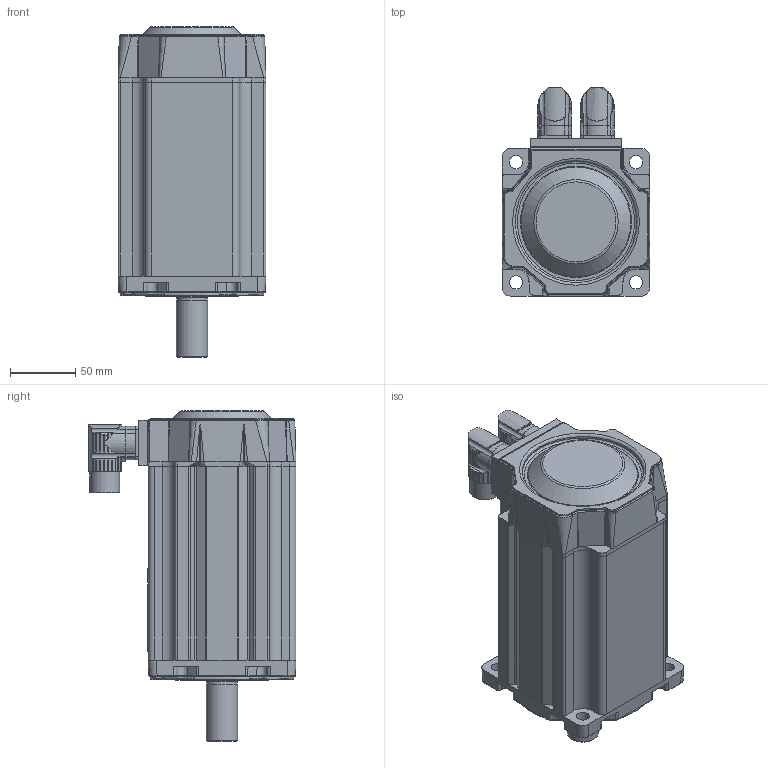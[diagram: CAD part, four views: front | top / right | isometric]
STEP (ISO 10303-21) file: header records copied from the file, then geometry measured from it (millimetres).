
FILE_DESCRIPTION((''),'2;1');
FILE_NAME('C:\CAD_work\Dummy_Modeling_Project_02-12-05\3D MODELS\MPP1154XXX_NPSN.stp','2005-12-20T17:14:27',('jevans'),(''),'Autodesk Inventor 10','Autodesk Inventor 10','');
FILE_SCHEMA(('AUTOMOTIVE_DESIGN { 1 0 10303 214 1 1 1 1 }'));
Length unit declared in the file: inch
Products named in the file (1): MPP115_MOTOR
Bounding box: 113.03 x 159.03 x 253.19 mm (x, y, z)
Volume: 2213655.7 mm3; surface area: 167107.7 mm2
Topology: 2 solids, 2 shells, 1017 faces, 2591 edges, 1624 vertices
Faces by surface type: bspline 355, cylinder 321, plane 240, cone 82, torus 17, sphere 2
Full cylindrical faces by diameter (mm): 1.143 x17, 2.032 x6, 2.794 x2, 19.05 x1, 19.685 x1, 22.86 x1, 23.647 x1, 24.003 x1, 24.994 x2, 31.75 x1, 47.549 x1, 54.61 x1, 61.468 x1, 62.001 x1, 62.027 x1, 62.268 x1, 65.634 x1, 69.85 x1, 71.12 x1, 93.066 x1, 109.995 x1
Entity records: 41634 total; most frequent: CARTESIAN_POINT 19322, ORIENTED_EDGE 4952, DIRECTION 4077, EDGE_CURVE 2476, VERTEX_POINT 1598, AXIS2_PLACEMENT_3D 1592, EDGE_LOOP 1168, FACE_OUTER_BOUND 1017
